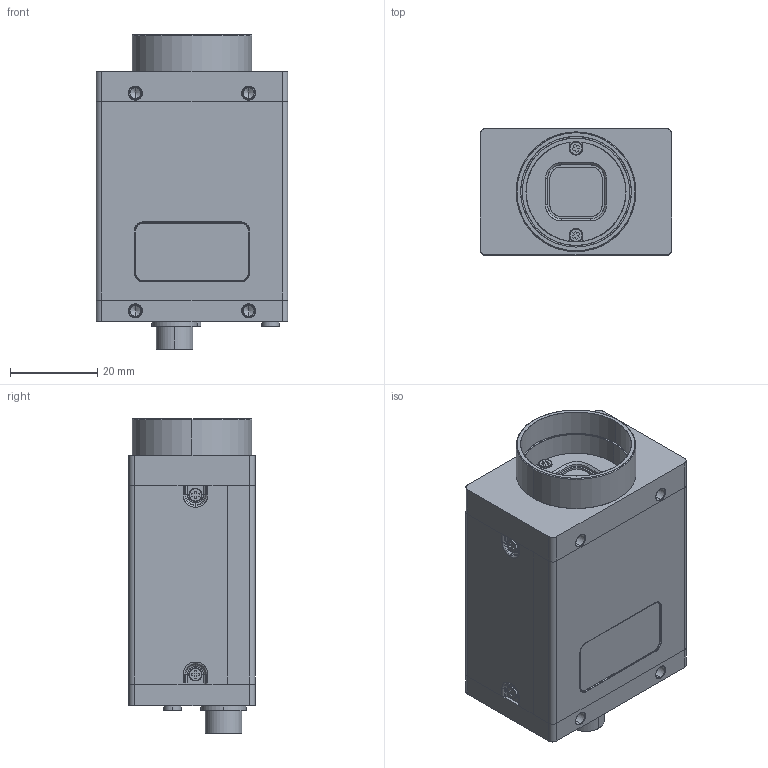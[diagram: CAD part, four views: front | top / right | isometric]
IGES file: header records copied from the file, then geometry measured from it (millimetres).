
Start section: SolidWorks IGES file using analytic representation for surfaces
Global section: file name: F:\mechanical\Documentation\Grasshopper\extracted files\GSR-003-R0.IGS; native system: SolidWorks 2014; preprocessor: SolidWorks 2014; author: gus; date: 131220.134519; units: millimetre
Bounding box: 44 x 29 x 72.2 mm (x, y, z)
Surface area: 13515.6 mm2 (no closed solid volume)
Topology: 0 solids, 0 shells, 471 faces, 4745 edges, 4725 vertices
Faces by surface type: bspline 271, revolution 200
